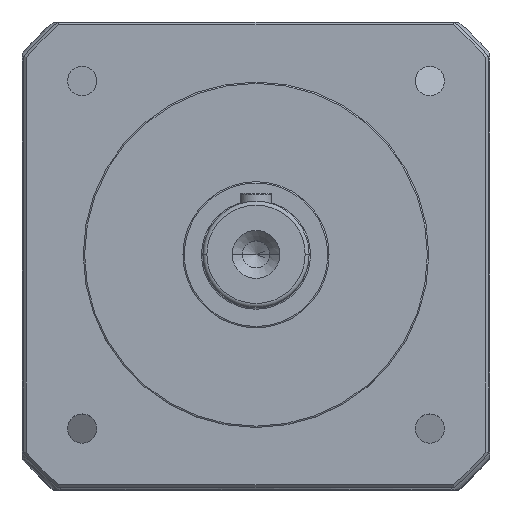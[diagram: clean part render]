
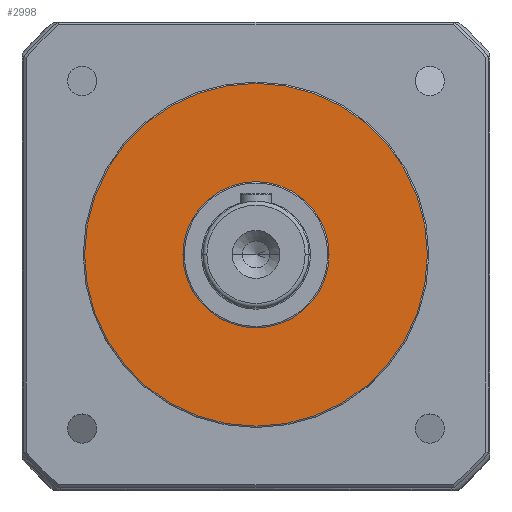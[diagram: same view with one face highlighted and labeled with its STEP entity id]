
A CAD part, top view. The second image highlights one B-rep face of the part: STEP entity #2998.
In plain terms, the highlighted planar face has unit normal (0, 0, 1).
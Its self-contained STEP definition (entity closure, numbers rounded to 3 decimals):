
#40 = CARTESIAN_POINT ( 'NONE',  ( 64.5, 0., 5. ) ) ;
#64 = CIRCLE ( 'NONE', #1093, 27.5 ) ;
#128 = PLANE ( 'NONE',  #1271 ) ;
#549 = CARTESIAN_POINT ( 'NONE',  ( 0., 0., 5. ) ) ;
#652 = ORIENTED_EDGE ( 'NONE', *, *, #1310, .T. ) ;
#847 = EDGE_LOOP ( 'NONE', ( #1952, #652 ) ) ;
#1052 = CARTESIAN_POINT ( 'NONE',  ( -27.5, 0., 5. ) ) ;
#1093 = AXIS2_PLACEMENT_3D ( 'NONE', #1979, #5418, #2462 ) ;
#1140 = CARTESIAN_POINT ( 'NONE',  ( 0., 0., 5. ) ) ;
#1271 = AXIS2_PLACEMENT_3D ( 'NONE', #1140, #4586, #1611 ) ;
#1310 = EDGE_CURVE ( 'NONE', #3499, #4788, #4252, .T. ) ;
#1432 = ORIENTED_EDGE ( 'NONE', *, *, #4758, .F. ) ;
#1584 = CARTESIAN_POINT ( 'NONE',  ( -64.5, 0., 5. ) ) ;
#1611 = DIRECTION ( 'NONE',  ( 1., 0., 0. ) ) ;
#1675 = DIRECTION ( 'NONE',  ( 0., 0., 1. ) ) ;
#1889 = EDGE_CURVE ( 'NONE', #4788, #3499, #2312, .T. ) ;
#1930 = DIRECTION ( 'NONE',  ( 0., 0., 1. ) ) ;
#1952 = ORIENTED_EDGE ( 'NONE', *, *, #1889, .T. ) ;
#1979 = CARTESIAN_POINT ( 'NONE',  ( 0., 0., 5. ) ) ;
#2085 = EDGE_CURVE ( 'NONE', #4389, #5990, #64, .T. ) ;
#2209 = AXIS2_PLACEMENT_3D ( 'NONE', #2815, #6259, #3309 ) ;
#2312 = CIRCLE ( 'NONE', #2209, 64.5 ) ;
#2374 = FACE_OUTER_BOUND ( 'NONE', #847, .T. ) ;
#2462 = DIRECTION ( 'NONE',  ( 1., 0., 0. ) ) ;
#2815 = CARTESIAN_POINT ( 'NONE',  ( 0., 0., 5. ) ) ;
#2998 = ADVANCED_FACE ( 'NONE', ( #4698, #2374 ), #128, .T. ) ;
#3309 = DIRECTION ( 'NONE',  ( 1., 0., 0. ) ) ;
#3499 = VERTEX_POINT ( 'NONE', #1584 ) ;
#3688 = AXIS2_PLACEMENT_3D ( 'NONE', #4883, #1930, #5376 ) ;
#4252 = CIRCLE ( 'NONE', #5789, 64.5 ) ;
#4389 = VERTEX_POINT ( 'NONE', #1052 ) ;
#4586 = DIRECTION ( 'NONE',  ( 0., 0., 1. ) ) ;
#4698 = FACE_BOUND ( 'NONE', #5830, .T. ) ;
#4742 = CIRCLE ( 'NONE', #3688, 27.5 ) ;
#4758 = EDGE_CURVE ( 'NONE', #5990, #4389, #4742, .T. ) ;
#4788 = VERTEX_POINT ( 'NONE', #40 ) ;
#4883 = CARTESIAN_POINT ( 'NONE',  ( 0., 0., 5. ) ) ;
#4928 = CARTESIAN_POINT ( 'NONE',  ( 27.5, 0., 5. ) ) ;
#5125 = ORIENTED_EDGE ( 'NONE', *, *, #2085, .F. ) ;
#5376 = DIRECTION ( 'NONE',  ( 1., 0., 0. ) ) ;
#5418 = DIRECTION ( 'NONE',  ( 0., 0., 1. ) ) ;
#5561 = DIRECTION ( 'NONE',  ( 1., 0., 0. ) ) ;
#5789 = AXIS2_PLACEMENT_3D ( 'NONE', #549, #1675, #5561 ) ;
#5830 = EDGE_LOOP ( 'NONE', ( #1432, #5125 ) ) ;
#5990 = VERTEX_POINT ( 'NONE', #4928 ) ;
#6259 = DIRECTION ( 'NONE',  ( 0., 0., 1. ) ) ;
